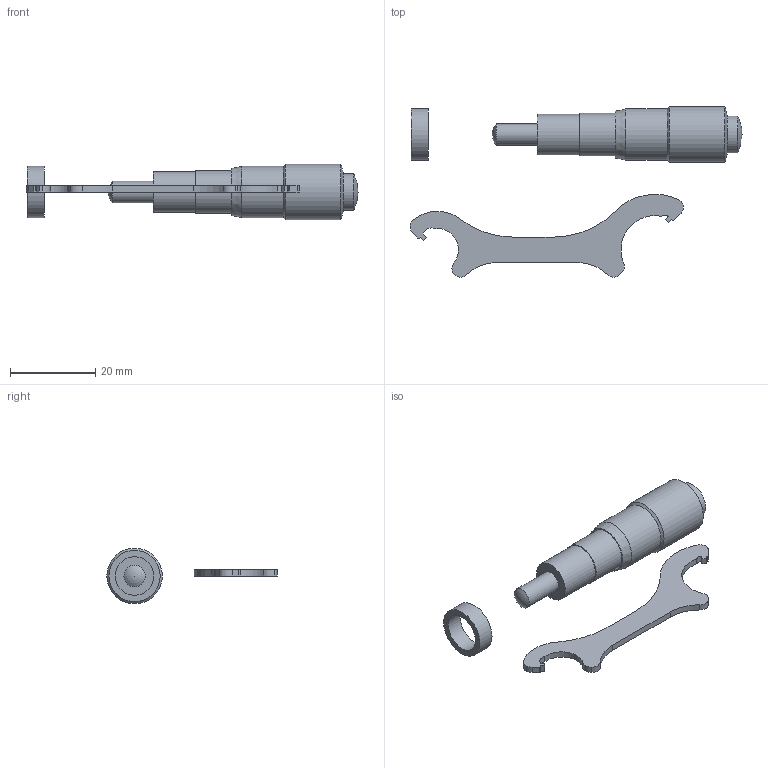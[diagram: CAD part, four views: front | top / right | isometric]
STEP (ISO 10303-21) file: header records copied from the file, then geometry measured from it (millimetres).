
FILE_DESCRIPTION( ( 'STEP AP203' ), '1' );
FILE_NAME( 'C:/3D-Trans/3D_B81-2+090212.step', '2009-02-12T02:21:27', ( ' ' ), ( ' ' ), 'XStep 1.0', ' ', ' ' );
FILE_SCHEMA( ( 'CONFIG_CONTROL_DESIGN' ) );
Length unit declared in the file: millimetre
Products named in the file (4): 1; 2; 3; 4
Bounding box: 77.78 x 39.91 x 13 mm (x, y, z)
Volume: 4526.1 mm3; surface area: 5841.2 mm2
Topology: 4 solids, 4 shells, 56 faces, 137 edges, 90 vertices
Faces by surface type: cylinder 28, plane 23, cone 3, sphere 2
Full cylindrical faces by diameter (mm): 5 x2, 8.6 x1, 9 x1, 9.5 x1, 10 x1, 10.5 x1, 12 x2, 13 x1
Entity records: 1730 total; most frequent: DIRECTION 294, CARTESIAN_POINT 262, ORIENTED_EDGE 234, AXIS2_PLACEMENT_3D 117, EDGE_CURVE 117, VERTEX_POINT 85, EDGE_LOOP 76, FACE_OUTER_BOUND 66
